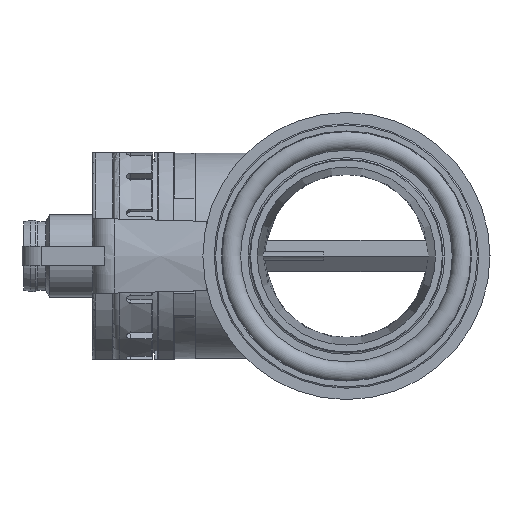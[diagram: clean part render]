
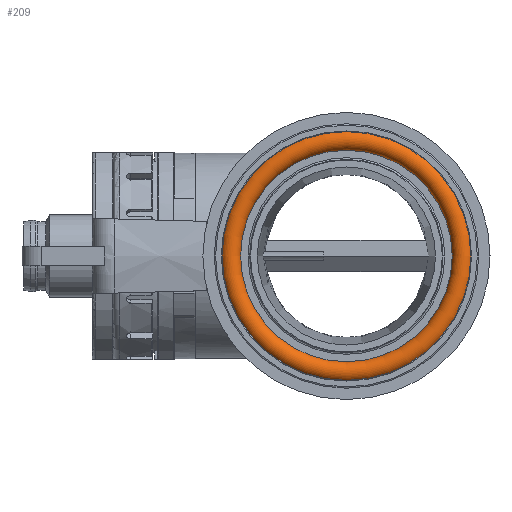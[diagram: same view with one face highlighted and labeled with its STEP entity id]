
A CAD part, left-side view. The second image highlights one B-rep face of the part: STEP entity #209.
In plain terms, the highlighted toroidal (fillet/blend) face has major radius 16.94 mm and minor radius 1.5 mm.
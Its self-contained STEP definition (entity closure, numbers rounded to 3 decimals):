
#209 = ADVANCED_FACE( '', ( #643, #644 ), #645, .T. );
#643 = FACE_OUTER_BOUND( '', #1232, .T. );
#644 = FACE_OUTER_BOUND( '', #1233, .T. );
#645 = TOROIDAL_SURFACE( '', #1234, 16.94, 1.5 );
#1232 = EDGE_LOOP( '', ( #2584 ) );
#1233 = EDGE_LOOP( '', ( #2585 ) );
#1234 = AXIS2_PLACEMENT_3D( '', #2586, #2587, #2588 );
#2584 = ORIENTED_EDGE( '', *, *, #4164, .T. );
#2585 = ORIENTED_EDGE( '', *, *, #4163, .F. );
#2586 = CARTESIAN_POINT( '', ( -12.435, -3.5, 0. ) );
#2587 = DIRECTION( '', ( 1., 0., 0. ) );
#2588 = DIRECTION( '', ( 0., 1., 0. ) );
#4163 = EDGE_CURVE( '', #5211, #5211, #5212, .T. );
#4164 = EDGE_CURVE( '', #5213, #5213, #5214, .T. );
#5211 = VERTEX_POINT( '', #7449 );
#5212 = CIRCLE( '', #7450, 18.157 );
#5213 = VERTEX_POINT( '', #7451 );
#5214 = CIRCLE( '', #7452, 16.94 );
#7449 = CARTESIAN_POINT( '', ( -13.312, 14.657, 0. ) );
#7450 = AXIS2_PLACEMENT_3D( '', #8748, #8749, #8750 );
#7451 = CARTESIAN_POINT( '', ( -10.935, 13.44, 0. ) );
#7452 = AXIS2_PLACEMENT_3D( '', #8751, #8752, #8753 );
#8748 = CARTESIAN_POINT( '', ( -13.312, -3.5, 0. ) );
#8749 = DIRECTION( '', ( 1., 0., 0. ) );
#8750 = DIRECTION( '', ( 0., 1., 0. ) );
#8751 = CARTESIAN_POINT( '', ( -10.935, -3.5, 0. ) );
#8752 = DIRECTION( '', ( 1., 0., 0. ) );
#8753 = DIRECTION( '', ( 0., 1., 0. ) );
